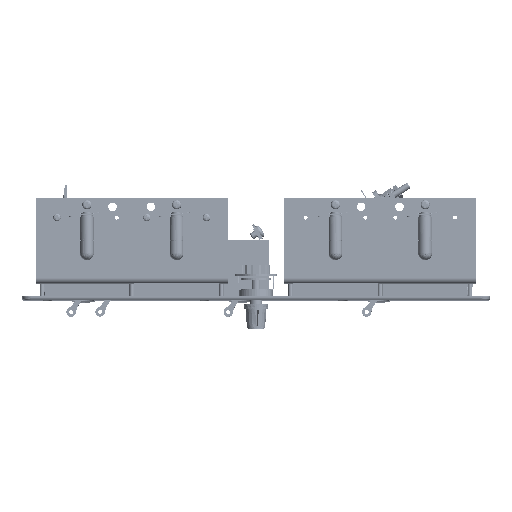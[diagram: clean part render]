
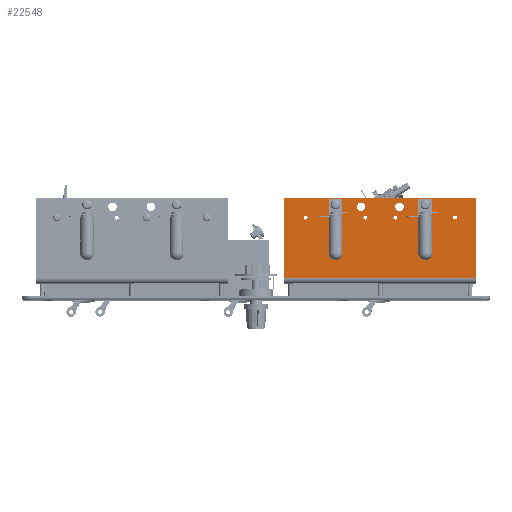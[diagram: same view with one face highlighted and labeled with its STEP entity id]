
A CAD part, top view. The second image highlights one B-rep face of the part: STEP entity #22548.
In plain terms, the highlighted planar face has unit normal (0, 0, 1) as drawn and (0, -1, 0) by its records, which use the part's own axes.
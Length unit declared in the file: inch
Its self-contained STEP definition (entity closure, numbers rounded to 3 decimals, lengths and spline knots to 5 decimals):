
#22065=CARTESIAN_POINT('',(-0.57222,-1.49704,3.3325));
#22066=VERTEX_POINT('',#22065);
#22075=CARTESIAN_POINT('',(-0.57222,-1.49704,3.4765));
#22076=VERTEX_POINT('',#22075);
#22077=CARTESIAN_POINT('',(-0.57222,-1.49704,3.4045));
#22078=DIRECTION('',(0.0,1.0,0.0));
#22079=DIRECTION('',(0.0,0.0,-1.0));
#22080=AXIS2_PLACEMENT_3D('',#22077,#22078,#22079);
#22081=CIRCLE('',#22080,0.072);
#22082=EDGE_CURVE('',#22076,#22066,#22081,.T.);
#22107=CARTESIAN_POINT('',(2.05278,-1.49704,3.3325));
#22108=VERTEX_POINT('',#22107);
#22117=CARTESIAN_POINT('',(2.05278,-1.49704,3.4765));
#22118=VERTEX_POINT('',#22117);
#22119=CARTESIAN_POINT('',(2.05278,-1.49704,3.4045));
#22120=DIRECTION('',(0.0,1.0,0.0));
#22121=DIRECTION('',(0.0,0.0,-1.0));
#22122=AXIS2_PLACEMENT_3D('',#22119,#22120,#22121);
#22123=CIRCLE('',#22122,0.072);
#22124=EDGE_CURVE('',#22118,#22108,#22123,.T.);
#22149=CARTESIAN_POINT('',(-1.44722,-1.49704,2.9715));
#22150=VERTEX_POINT('',#22149);
#22159=CARTESIAN_POINT('',(-1.44722,-1.49704,3.0875));
#22160=VERTEX_POINT('',#22159);
#22161=CARTESIAN_POINT('',(-1.44722,-1.49704,3.0295));
#22162=DIRECTION('',(0.0,1.0,0.0));
#22163=DIRECTION('',(0.0,0.0,-1.0));
#22164=AXIS2_PLACEMENT_3D('',#22161,#22162,#22163);
#22165=CIRCLE('',#22164,0.058);
#22166=EDGE_CURVE('',#22160,#22150,#22165,.T.);
#22191=CARTESIAN_POINT('',(0.30278,-1.49704,2.9715));
#22192=VERTEX_POINT('',#22191);
#22201=CARTESIAN_POINT('',(0.30278,-1.49704,3.0875));
#22202=VERTEX_POINT('',#22201);
#22203=CARTESIAN_POINT('',(0.30278,-1.49704,3.0295));
#22204=DIRECTION('',(0.0,1.0,0.0));
#22205=DIRECTION('',(0.0,0.0,-1.0));
#22206=AXIS2_PLACEMENT_3D('',#22203,#22204,#22205);
#22207=CIRCLE('',#22206,0.058);
#22208=EDGE_CURVE('',#22202,#22192,#22207,.T.);
#22233=CARTESIAN_POINT('',(1.17778,-1.49704,2.9715));
#22234=VERTEX_POINT('',#22233);
#22243=CARTESIAN_POINT('',(1.17778,-1.49704,3.0875));
#22244=VERTEX_POINT('',#22243);
#22245=CARTESIAN_POINT('',(1.17778,-1.49704,3.0295));
#22246=DIRECTION('',(0.0,1.0,0.0));
#22247=DIRECTION('',(0.0,0.0,-1.0));
#22248=AXIS2_PLACEMENT_3D('',#22245,#22246,#22247);
#22249=CIRCLE('',#22248,0.058);
#22250=EDGE_CURVE('',#22244,#22234,#22249,.T.);
#22275=CARTESIAN_POINT('',(2.92778,-1.49704,2.9715));
#22276=VERTEX_POINT('',#22275);
#22285=CARTESIAN_POINT('',(2.92778,-1.49704,3.0875));
#22286=VERTEX_POINT('',#22285);
#22287=CARTESIAN_POINT('',(2.92778,-1.49704,3.0295));
#22288=DIRECTION('',(0.0,1.0,0.0));
#22289=DIRECTION('',(0.0,0.0,-1.0));
#22290=AXIS2_PLACEMENT_3D('',#22287,#22288,#22289);
#22291=CIRCLE('',#22290,0.058);
#22292=EDGE_CURVE('',#22286,#22276,#22291,.T.);
#22317=CARTESIAN_POINT('',(0.17778,-1.49704,3.217));
#22318=VERTEX_POINT('',#22317);
#22327=CARTESIAN_POINT('',(0.17778,-1.49704,3.467));
#22328=VERTEX_POINT('',#22327);
#22329=CARTESIAN_POINT('',(0.17778,-1.49704,3.342));
#22330=DIRECTION('',(0.0,1.0,0.0));
#22331=DIRECTION('',(0.0,0.0,-1.0));
#22332=AXIS2_PLACEMENT_3D('',#22329,#22330,#22331);
#22333=CIRCLE('',#22332,0.125);
#22334=EDGE_CURVE('',#22328,#22318,#22333,.T.);
#22359=CARTESIAN_POINT('',(1.30278,-1.49704,3.217));
#22360=VERTEX_POINT('',#22359);
#22369=CARTESIAN_POINT('',(1.30278,-1.49704,3.467));
#22370=VERTEX_POINT('',#22369);
#22371=CARTESIAN_POINT('',(1.30278,-1.49704,3.342));
#22372=DIRECTION('',(0.0,1.0,0.0));
#22373=DIRECTION('',(0.0,0.0,-1.0));
#22374=AXIS2_PLACEMENT_3D('',#22371,#22372,#22373);
#22375=CIRCLE('',#22374,0.125);
#22376=EDGE_CURVE('',#22370,#22360,#22375,.T.);
#22403=CARTESIAN_POINT('',(3.55278,-1.49704,1.272));
#22404=VERTEX_POINT('',#22403);
#22412=CARTESIAN_POINT('',(-2.07222,-1.49704,1.272));
#22413=VERTEX_POINT('',#22412);
#22414=CARTESIAN_POINT('',(3.55278,-1.49704,1.272));
#22415=DIRECTION('',(-1.0,0.0,0.0));
#22416=VECTOR('',#22415,5.625);
#22417=LINE('',#22414,#22416);
#22418=EDGE_CURVE('',#22404,#22413,#22417,.T.);
#22438=CARTESIAN_POINT('',(0.92778,-1.49704,1.092));
#22439=DIRECTION('',(0.0,-1.0,0.0));
#22440=DIRECTION('',(0.0,0.0,-1.0));
#22441=AXIS2_PLACEMENT_3D('',#22438,#22439,#22440);
#22442=PLANE('',#22441);
#22443=ORIENTED_EDGE('',*,*,#22418,.F.);
#22444=CARTESIAN_POINT('',(3.55278,-1.49704,3.592));
#22445=VERTEX_POINT('',#22444);
#22446=CARTESIAN_POINT('',(3.55278,-1.49704,1.272));
#22447=DIRECTION('',(0.0,0.0,1.0));
#22448=VECTOR('',#22447,2.32);
#22449=LINE('',#22446,#22448);
#22450=EDGE_CURVE('',#22404,#22445,#22449,.T.);
#22451=ORIENTED_EDGE('',*,*,#22450,.T.);
#22452=CARTESIAN_POINT('',(-2.07222,-1.49704,3.592));
#22453=VERTEX_POINT('',#22452);
#22454=CARTESIAN_POINT('',(3.55278,-1.49704,3.592));
#22455=DIRECTION('',(-1.0,0.0,0.0));
#22456=VECTOR('',#22455,5.625);
#22457=LINE('',#22454,#22456);
#22458=EDGE_CURVE('',#22445,#22453,#22457,.T.);
#22459=ORIENTED_EDGE('',*,*,#22458,.T.);
#22460=CARTESIAN_POINT('',(-2.07222,-1.49704,1.272));
#22461=DIRECTION('',(0.0,0.0,1.0));
#22462=VECTOR('',#22461,2.32);
#22463=LINE('',#22460,#22462);
#22464=EDGE_CURVE('',#22413,#22453,#22463,.T.);
#22465=ORIENTED_EDGE('',*,*,#22464,.F.);
#22466=EDGE_LOOP('',(#22443,#22451,#22459,#22465));
#22467=FACE_OUTER_BOUND('',#22466,.T.);
#22468=CARTESIAN_POINT('',(-0.57222,-1.49704,3.4045));
#22469=DIRECTION('',(0.0,1.0,0.0));
#22470=DIRECTION('',(0.0,0.0,-1.0));
#22471=AXIS2_PLACEMENT_3D('',#22468,#22469,#22470);
#22472=CIRCLE('',#22471,0.072);
#22473=EDGE_CURVE('',#22066,#22076,#22472,.T.);
#22474=ORIENTED_EDGE('',*,*,#22473,.T.);
#22475=ORIENTED_EDGE('',*,*,#22082,.T.);
#22476=EDGE_LOOP('',(#22474,#22475));
#22477=FACE_BOUND('',#22476,.T.);
#22478=CARTESIAN_POINT('',(2.05278,-1.49704,3.4045));
#22479=DIRECTION('',(0.0,1.0,0.0));
#22480=DIRECTION('',(0.0,0.0,-1.0));
#22481=AXIS2_PLACEMENT_3D('',#22478,#22479,#22480);
#22482=CIRCLE('',#22481,0.072);
#22483=EDGE_CURVE('',#22108,#22118,#22482,.T.);
#22484=ORIENTED_EDGE('',*,*,#22483,.T.);
#22485=ORIENTED_EDGE('',*,*,#22124,.T.);
#22486=EDGE_LOOP('',(#22484,#22485));
#22487=FACE_BOUND('',#22486,.T.);
#22488=CARTESIAN_POINT('',(-1.44722,-1.49704,3.0295));
#22489=DIRECTION('',(0.0,1.0,0.0));
#22490=DIRECTION('',(0.0,0.0,-1.0));
#22491=AXIS2_PLACEMENT_3D('',#22488,#22489,#22490);
#22492=CIRCLE('',#22491,0.058);
#22493=EDGE_CURVE('',#22150,#22160,#22492,.T.);
#22494=ORIENTED_EDGE('',*,*,#22493,.T.);
#22495=ORIENTED_EDGE('',*,*,#22166,.T.);
#22496=EDGE_LOOP('',(#22494,#22495));
#22497=FACE_BOUND('',#22496,.T.);
#22498=CARTESIAN_POINT('',(0.30278,-1.49704,3.0295));
#22499=DIRECTION('',(0.0,1.0,0.0));
#22500=DIRECTION('',(0.0,0.0,-1.0));
#22501=AXIS2_PLACEMENT_3D('',#22498,#22499,#22500);
#22502=CIRCLE('',#22501,0.058);
#22503=EDGE_CURVE('',#22192,#22202,#22502,.T.);
#22504=ORIENTED_EDGE('',*,*,#22503,.T.);
#22505=ORIENTED_EDGE('',*,*,#22208,.T.);
#22506=EDGE_LOOP('',(#22504,#22505));
#22507=FACE_BOUND('',#22506,.T.);
#22508=CARTESIAN_POINT('',(1.17778,-1.49704,3.0295));
#22509=DIRECTION('',(0.0,1.0,0.0));
#22510=DIRECTION('',(0.0,0.0,-1.0));
#22511=AXIS2_PLACEMENT_3D('',#22508,#22509,#22510);
#22512=CIRCLE('',#22511,0.058);
#22513=EDGE_CURVE('',#22234,#22244,#22512,.T.);
#22514=ORIENTED_EDGE('',*,*,#22513,.T.);
#22515=ORIENTED_EDGE('',*,*,#22250,.T.);
#22516=EDGE_LOOP('',(#22514,#22515));
#22517=FACE_BOUND('',#22516,.T.);
#22518=CARTESIAN_POINT('',(2.92778,-1.49704,3.0295));
#22519=DIRECTION('',(0.0,1.0,0.0));
#22520=DIRECTION('',(0.0,0.0,-1.0));
#22521=AXIS2_PLACEMENT_3D('',#22518,#22519,#22520);
#22522=CIRCLE('',#22521,0.058);
#22523=EDGE_CURVE('',#22276,#22286,#22522,.T.);
#22524=ORIENTED_EDGE('',*,*,#22523,.T.);
#22525=ORIENTED_EDGE('',*,*,#22292,.T.);
#22526=EDGE_LOOP('',(#22524,#22525));
#22527=FACE_BOUND('',#22526,.T.);
#22528=CARTESIAN_POINT('',(0.17778,-1.49704,3.342));
#22529=DIRECTION('',(0.0,1.0,0.0));
#22530=DIRECTION('',(0.0,0.0,-1.0));
#22531=AXIS2_PLACEMENT_3D('',#22528,#22529,#22530);
#22532=CIRCLE('',#22531,0.125);
#22533=EDGE_CURVE('',#22318,#22328,#22532,.T.);
#22534=ORIENTED_EDGE('',*,*,#22533,.T.);
#22535=ORIENTED_EDGE('',*,*,#22334,.T.);
#22536=EDGE_LOOP('',(#22534,#22535));
#22537=FACE_BOUND('',#22536,.T.);
#22538=CARTESIAN_POINT('',(1.30278,-1.49704,3.342));
#22539=DIRECTION('',(0.0,1.0,0.0));
#22540=DIRECTION('',(0.0,0.0,-1.0));
#22541=AXIS2_PLACEMENT_3D('',#22538,#22539,#22540);
#22542=CIRCLE('',#22541,0.125);
#22543=EDGE_CURVE('',#22360,#22370,#22542,.T.);
#22544=ORIENTED_EDGE('',*,*,#22543,.T.);
#22545=ORIENTED_EDGE('',*,*,#22376,.T.);
#22546=EDGE_LOOP('',(#22544,#22545));
#22547=FACE_BOUND('',#22546,.T.);
#22548=ADVANCED_FACE('',(#22467,#22477,#22487,#22497,#22507,#22517,#22527,#22537,#22547),#22442,.T.);
